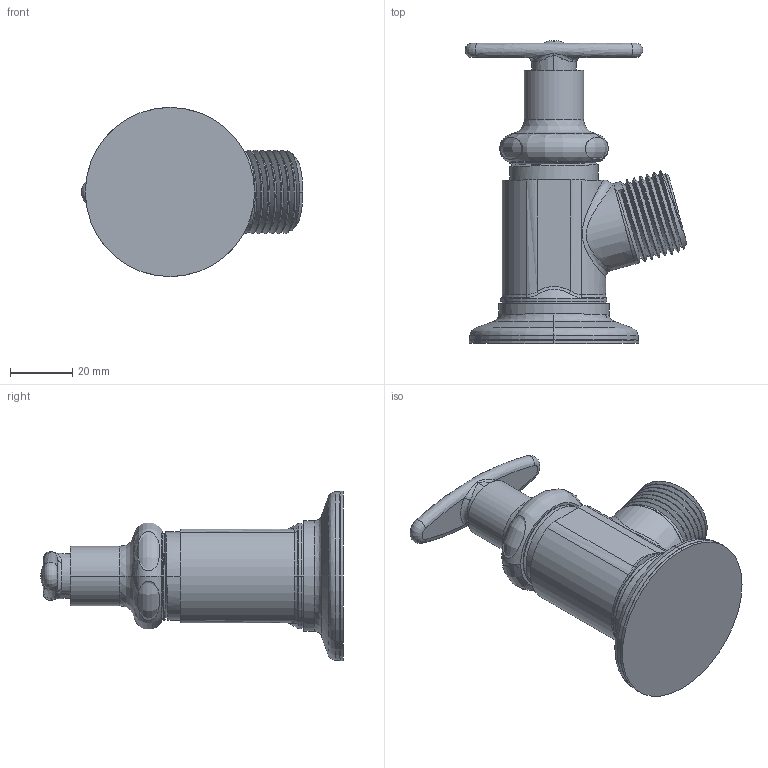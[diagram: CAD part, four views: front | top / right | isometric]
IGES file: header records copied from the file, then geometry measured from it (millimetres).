
Start section:  PTC IGES file: 387-XKCP_REV031910.igs
Global section: file name: 387-XKCP_REV031910.igs; native system: Pro/ENGINEER by Parametric Technology Corporation; preprocessor: 2009230; author: sdmitruk; organization: Unknown; date: 20100319.152108; units: inch
Bounding box: 71.21 x 97.29 x 54.36 mm (x, y, z)
Surface area: 27118 mm2 (no closed solid volume)
Topology: 0 solids, 13 shells, 143 faces, 341 edges, 210 vertices
Faces by surface type: revolution 74, bspline 69
